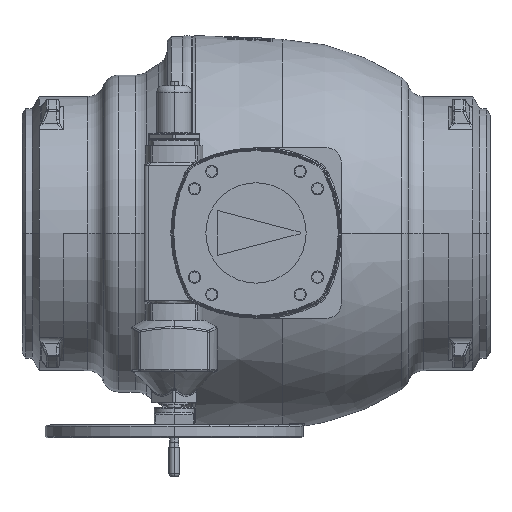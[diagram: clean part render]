
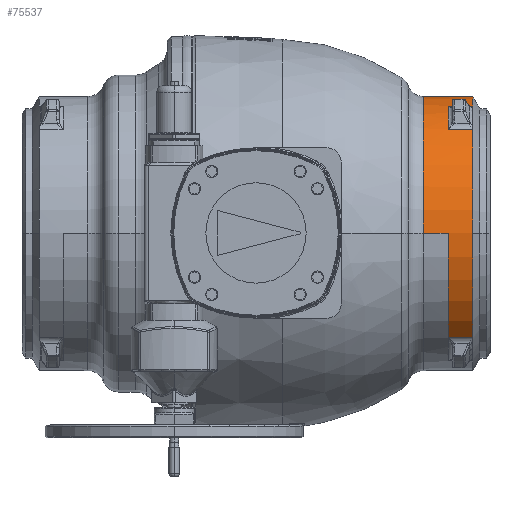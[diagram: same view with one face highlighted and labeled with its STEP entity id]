
A CAD part, top view. The second image highlights one B-rep face of the part: STEP entity #75537.
In plain terms, the highlighted cylindrical face has radius 335 mm (diameter 670 mm), a partial arc.
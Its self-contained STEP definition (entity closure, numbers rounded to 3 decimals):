
#14880=DIRECTION('',(-1.,0.,0.));
#14881=VECTOR('',#14880,60.56);
#14882=CARTESIAN_POINT('',(469.5,0.,-335.));
#14883=LINE('',#14882,#14881);
#14889=DIRECTION('',(-1.,0.,0.));
#14890=VECTOR('',#14889,60.56);
#14891=CARTESIAN_POINT('',(469.5,0.,335.));
#14892=LINE('',#14891,#14890);
#14893=CARTESIAN_POINT('',(469.5,0.,0.));
#14894=DIRECTION('',(-1.,0.,0.));
#14895=DIRECTION('',(0.,-0.76,0.65));
#14896=AXIS2_PLACEMENT_3D('',#14893,#14894,#14895);
#15110=CARTESIAN_POINT('',(529.179,0.,0.));
#15111=DIRECTION('',(-1.,0.,0.));
#15112=DIRECTION('',(0.,0.,1.));
#15113=AXIS2_PLACEMENT_3D('',#15110,#15111,#15112);
#15115=CARTESIAN_POINT('',(529.179,0.,0.));
#15116=DIRECTION('',(-1.,0.,0.));
#15117=DIRECTION('',(0.,-0.76,0.65));
#15118=AXIS2_PLACEMENT_3D('',#15115,#15116,#15117);
#15120=DIRECTION('',(-1.,0.,0.));
#15121=VECTOR('',#15120,59.679);
#15122=CARTESIAN_POINT('',(529.179,-254.721,
217.583));
#15123=LINE('',#15122,#15121);
#15124=CARTESIAN_POINT('',(408.94,0.,0.));
#15125=DIRECTION('',(1.,0.,0.));
#15126=DIRECTION('',(0.,0.,-1.));
#15127=AXIS2_PLACEMENT_3D('',#15124,#15125,#15126);
#15129=DIRECTION('',(-1.,0.,0.));
#15130=VECTOR('',#15129,59.679);
#15131=CARTESIAN_POINT('',(529.179,48.285,
-331.502));
#15132=LINE('',#15131,#15130);
#15133=CARTESIAN_POINT('',(529.179,0.,0.));
#15134=DIRECTION('',(-1.,0.,0.));
#15135=DIRECTION('',(0.,0.929,0.37));
#15136=AXIS2_PLACEMENT_3D('',#15133,#15134,#15135);
#15138=DIRECTION('',(-1.,0.,0.));
#15139=VECTOR('',#15138,59.679);
#15140=CARTESIAN_POINT('',(529.179,311.232,123.935));
#15141=LINE('',#15140,#15139);
#15142=DIRECTION('',(-1.,0.,0.));
#15143=VECTOR('',#15142,59.679);
#15144=CARTESIAN_POINT('',(529.179,254.721,217.583));
#15145=LINE('',#15144,#15143);
#28291=CARTESIAN_POINT('',(469.5,48.285,-331.502));
#28293=CARTESIAN_POINT('',(469.5,0.,0.));
#28294=DIRECTION('',(-1.,0.,0.));
#28295=DIRECTION('',(0.,0.144,-0.99));
#28296=AXIS2_PLACEMENT_3D('',#28293,#28294,#28295);
#28747=CARTESIAN_POINT('',(469.5,311.232,123.935));
#29025=CARTESIAN_POINT('',(469.5,254.721,217.583));
#29027=CARTESIAN_POINT('',(469.5,0.,0.));
#29028=DIRECTION('',(-1.,0.,0.));
#29029=DIRECTION('',(0.,0.76,0.65));
#29030=AXIS2_PLACEMENT_3D('',#29027,#29028,#29029);
#38522=CARTESIAN_POINT('',(408.94,0.,335.));
#38523=CARTESIAN_POINT('',(408.94,0.,-335.));
#38524=VERTEX_POINT('',#38522);
#38525=VERTEX_POINT('',#38523);
#38550=CARTESIAN_POINT('',(529.179,0.,335.));
#38551=CARTESIAN_POINT('',(529.179,254.721,217.583));
#38552=VERTEX_POINT('',#38550);
#38553=VERTEX_POINT('',#38551);
#38604=CARTESIAN_POINT('',(469.5,0.,-335.));
#38605=VERTEX_POINT('',#38604);
#38606=CARTESIAN_POINT('',(469.5,0.,335.));
#38607=VERTEX_POINT('',#38606);
#38608=CARTESIAN_POINT('',(469.5,-254.721,217.583));
#38609=VERTEX_POINT('',#38608);
#38677=VERTEX_POINT('',#28291);
#38700=VERTEX_POINT('',#29025);
#38742=VERTEX_POINT('',#28747);
#38751=CARTESIAN_POINT('',(529.179,311.232,123.935));
#38752=CARTESIAN_POINT('',(529.179,48.285,
-331.502));
#38753=VERTEX_POINT('',#38751);
#38754=VERTEX_POINT('',#38752);
#38755=CARTESIAN_POINT('',(529.179,-254.721,
217.583));
#38756=VERTEX_POINT('',#38755);
#75510=CARTESIAN_POINT('',(630.075,0.,0.));
#75511=DIRECTION('',(-1.,0.,0.));
#75512=DIRECTION('',(0.,0.,1.));
#75513=AXIS2_PLACEMENT_3D('',#75510,#75511,#75512);
#75514=CYLINDRICAL_SURFACE('',#75513,335.);
#75515=ORIENTED_EDGE('',*,*,#75485,.F.);
#75516=ORIENTED_EDGE('',*,*,#75273,.F.);
#75518=ORIENTED_EDGE('',*,*,#75517,.T.);
#75519=ORIENTED_EDGE('',*,*,#75305,.T.);
#75520=ORIENTED_EDGE('',*,*,#75303,.T.);
#75522=ORIENTED_EDGE('',*,*,#75521,.F.);
#75523=ORIENTED_EDGE('',*,*,#75299,.F.);
#75525=ORIENTED_EDGE('',*,*,#75524,.F.);
#75527=ORIENTED_EDGE('',*,*,#75526,.F.);
#75528=ORIENTED_EDGE('',*,*,#75497,.F.);
#75530=ORIENTED_EDGE('',*,*,#75529,.T.);
#75532=ORIENTED_EDGE('',*,*,#75531,.F.);
#75534=ORIENTED_EDGE('',*,*,#75533,.F.);
#75535=EDGE_LOOP('',(#75515,#75516,#75518,#75519,#75520,#75522,#75523,#75525,
#75527,#75528,#75530,#75532,#75534));
#75536=FACE_OUTER_BOUND('',#75535,.F.);
#75537=ADVANCED_FACE('',(#75536),#75514,.T.);
#14897=CIRCLE('',#14896,335.);
#15114=CIRCLE('',#15113,335.);
#15119=CIRCLE('',#15118,335.);
#15128=CIRCLE('',#15127,335.);
#15137=CIRCLE('',#15136,335.);
#28297=CIRCLE('',#28296,335.);
#29031=CIRCLE('',#29030,335.);
#75273=EDGE_CURVE('',#38756,#38552,#15119,.T.);
#75299=EDGE_CURVE('',#38605,#38525,#14883,.T.);
#75303=EDGE_CURVE('',#38607,#38524,#14892,.T.);
#75305=EDGE_CURVE('',#38609,#38607,#14897,.T.);
#75485=EDGE_CURVE('',#38552,#38553,#15114,.T.);
#75497=EDGE_CURVE('',#38753,#38754,#15137,.T.);
#75517=EDGE_CURVE('',#38756,#38609,#15123,.T.);
#75521=EDGE_CURVE('',#38525,#38524,#15128,.T.);
#75524=EDGE_CURVE('',#38677,#38605,#28297,.T.);
#75526=EDGE_CURVE('',#38754,#38677,#15132,.T.);
#75529=EDGE_CURVE('',#38753,#38742,#15141,.T.);
#75531=EDGE_CURVE('',#38700,#38742,#29031,.T.);
#75533=EDGE_CURVE('',#38553,#38700,#15145,.T.);
